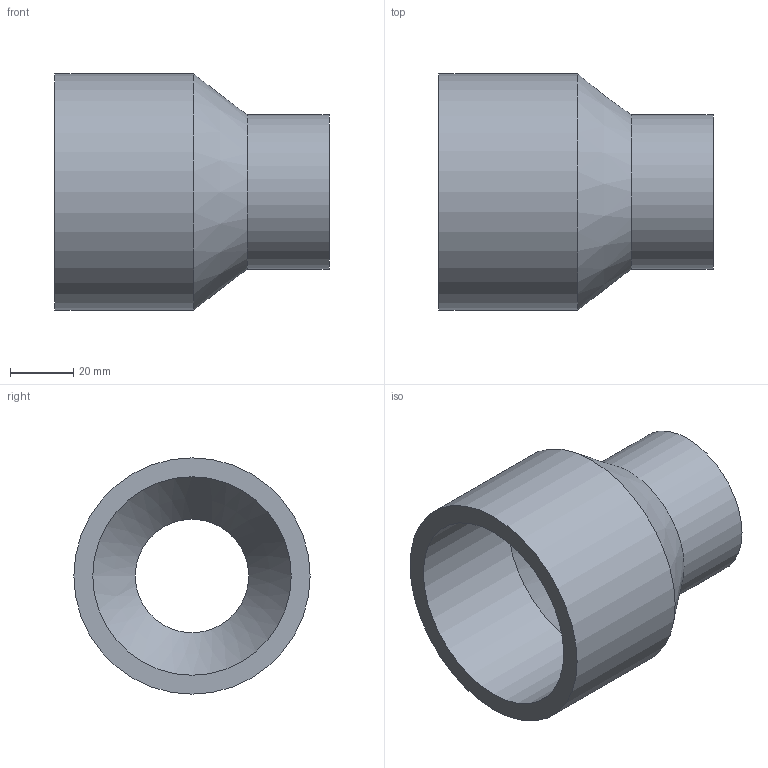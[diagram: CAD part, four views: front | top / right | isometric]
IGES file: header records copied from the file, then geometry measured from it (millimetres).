
Global section: file name: 050200075040.ipt; native system: Autodesk Inventor 2015; preprocessor: unknown; author: KIM; date: 20171207.164210; units: millimetre
Bounding box: 87 x 75 x 75 mm (x, y, z)
Volume: 104106.3 mm3; surface area: 35555.5 mm2
Topology: 1 solids, 1 shells, 10 faces, 23 edges, 16 vertices
Faces by surface type: revolution 4, plane 3, cylinder 2, cone 1
Full cylindrical faces by diameter (mm): 49 x1, 75 x1
